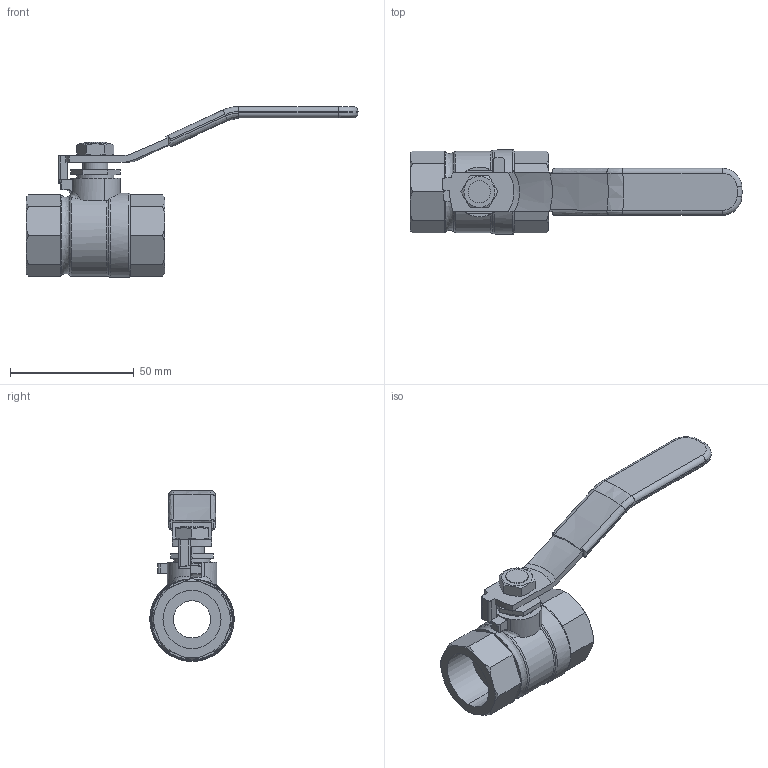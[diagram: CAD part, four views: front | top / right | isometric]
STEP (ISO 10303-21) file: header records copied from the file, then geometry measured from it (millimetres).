
FILE_DESCRIPTION( (''), '2;1');
FILE_NAME ('PC2091.14996.20A_1225.stp','2026-05-28T08:43:02',(''),(''),'spGate 21.9.4 (****-****-****-****)','','');
FILE_SCHEMA (('AUTOMOTIVE_DESIGN'));
Length unit declared in the file: millimetre
Bounding box: 134 x 34 x 69 mm (x, y, z)
Volume: 41251.5 mm3; surface area: 17075 mm2
Topology: 1 solids, 1 shells, 182 faces, 480 edges, 304 vertices
Faces by surface type: plane 83, bspline 57, cylinder 39, sphere 3
Entity records: 10359 total; most frequent: CARTESIAN_POINT 2604, ORIENTED_EDGE 954, DIRECTION 716, COLOUR_RGB 660, PRESENTATION_STYLE_ASSIGNMENT 660, STYLED_ITEM 660, EDGE_CURVE 477, DRAUGHTING_PRE_DEFINED_CURVE_FONT 477
